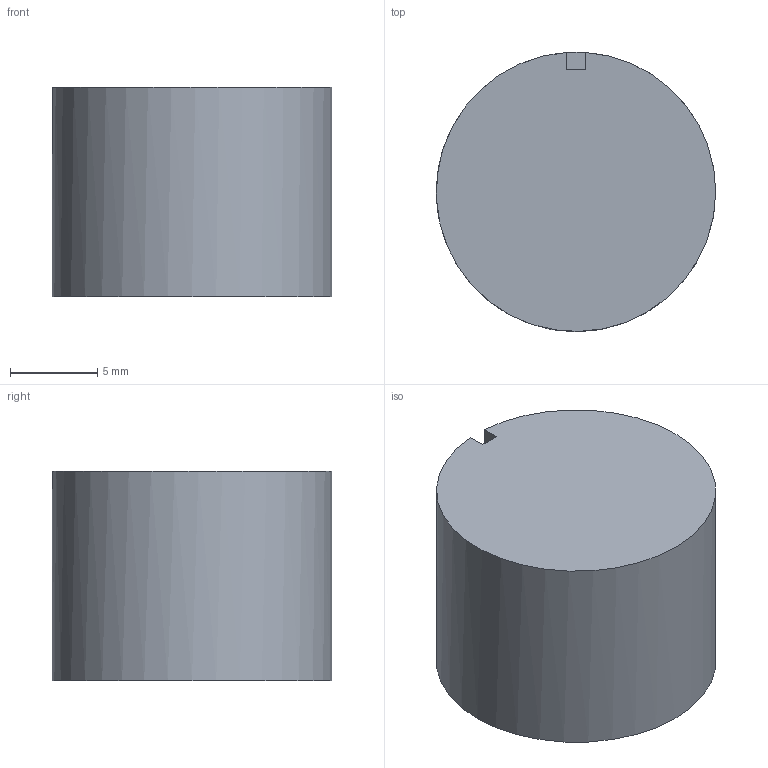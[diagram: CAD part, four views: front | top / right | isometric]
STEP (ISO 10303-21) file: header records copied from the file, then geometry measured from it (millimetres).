
FILE_DESCRIPTION(('Open CASCADE Model'),'2;1');
FILE_NAME('Open CASCADE Shape Model','2026-09-11T05:12:42',('Author'),( 'Open CASCADE'),'Open CASCADE STEP processor 7.9','Open CASCADE 7.9' ,'Unknown');
FILE_SCHEMA(('AUTOMOTIVE_DESIGN { 1 0 10303 214 1 1 1 1 }'));
Length unit declared in the file: millimetre
Products named in the file (1): Open CASCADE STEP translator 7.9 3
Bounding box: 16 x 16 x 12 mm (x, y, z)
Volume: 2201.9 mm3; surface area: 1164.5 mm2
Topology: 1 solids, 1 shells, 10 faces, 21 edges, 14 vertices
Faces by surface type: plane 8, cylinder 2
Full cylindrical faces by diameter (mm): 16 x1
Entity records: 542 total; most frequent: CARTESIAN_POINT 118, DIRECTION 71, ORIENTED_EDGE 42, PCURVE 42, DEFINITIONAL_REPRESENTATION 42, LINE 33, VECTOR 33, EDGE_CURVE 21
